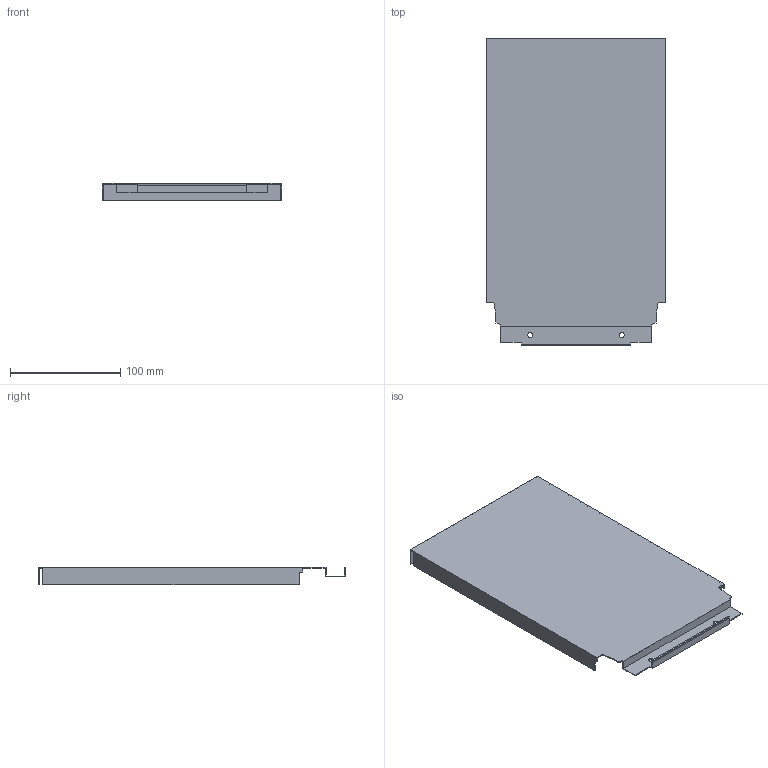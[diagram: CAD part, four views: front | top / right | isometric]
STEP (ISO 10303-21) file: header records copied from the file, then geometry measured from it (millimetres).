
FILE_DESCRIPTION (( 'STEP AP214' ), '1' );
FILE_NAME ('_DWD_XP Stahlrückwand_H278_KAB250_S18.step', '2010-07-08T13:03:53', ( 'grass' ), ( '' ), 'SwSTEP 2.0', 'SolidWorks 2010', '' );
FILE_SCHEMA (( 'AUTOMOTIVE_DESIGN' ));
Length unit declared in the file: millimetre
Products named in the file (1): _DWD_XP Stahlrückwand_H278_KAB250_S18
Bounding box: 163 x 278.57 x 16 mm (x, y, z)
Volume: 49050.6 mm3; surface area: 112372 mm2
Topology: 1 solids, 1 shells, 44 faces, 126 edges, 84 vertices
Faces by surface type: plane 40, cylinder 4
Entity records: 1460 total; most frequent: CARTESIAN_POINT 255, ORIENTED_EDGE 252, DIRECTION 224, EDGE_CURVE 126, LINE 118, VECTOR 118, VERTEX_POINT 84, AXIS2_PLACEMENT_3D 53
